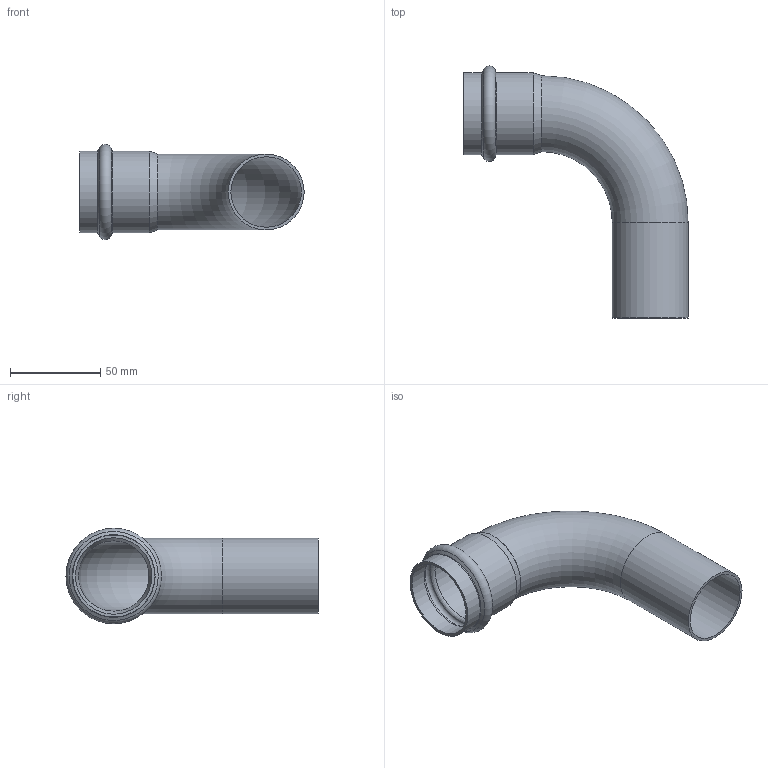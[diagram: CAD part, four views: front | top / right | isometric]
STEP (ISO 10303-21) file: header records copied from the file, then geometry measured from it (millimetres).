
FILE_DESCRIPTION((''),'2;1');
FILE_NAME('G:\Nirosan-Schmiedefeld\Technics\CAD\Bauteile VA\042\69001A42(1).stp','2011-09-06T11:56:48',('herberg'),(''),'Autodesk Inventor 2009','Autodesk Inventor 2009','');
FILE_SCHEMA(('AUTOMOTIVE_DESIGN { 1 0 10303 214 1 1 1 1 }'));
Length unit declared in the file: millimetre
Products named in the file (1): 69001A42(1)
Bounding box: 124 x 139.4 x 52.8 mm (x, y, z)
Volume: 38012.7 mm3; surface area: 51080.2 mm2
Topology: 1 solids, 1 shells, 22 faces, 48 edges, 28 vertices
Faces by surface type: cylinder 8, torus 4, cone 4, bspline 4, plane 2
Full cylindrical faces by diameter (mm): 39 x2, 42 x2, 42.3 x2, 45.3 x2
Entity records: 634 total; most frequent: CARTESIAN_POINT 243, DIRECTION 82, ORIENTED_EDGE 44, EDGE_LOOP 44, AXIS2_PLACEMENT_3D 41, VERTEX_POINT 22, CIRCLE 22, EDGE_CURVE 22
